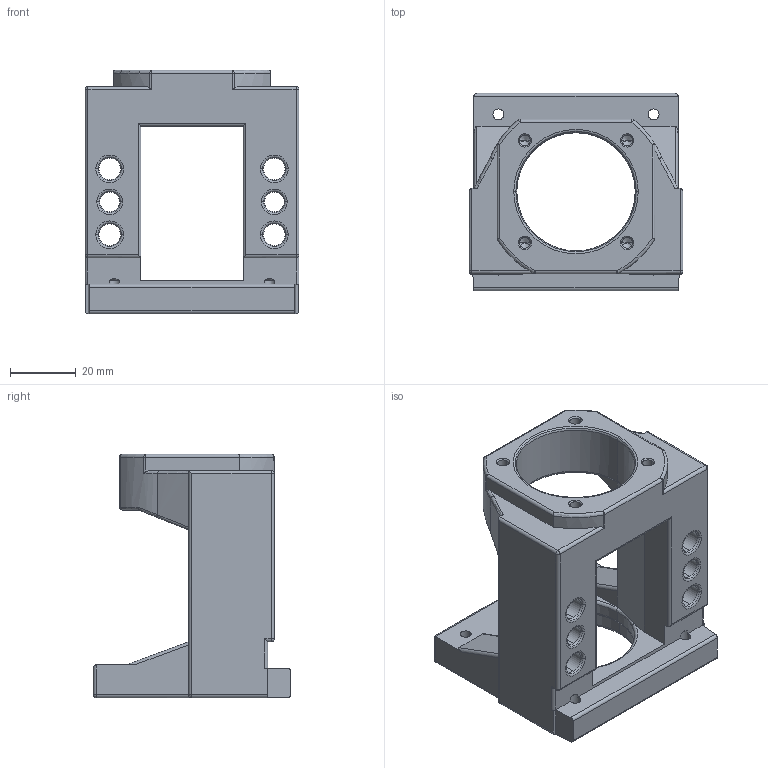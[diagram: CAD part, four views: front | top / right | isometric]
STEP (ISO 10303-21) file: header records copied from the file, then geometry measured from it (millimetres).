
FILE_DESCRIPTION((''),'2;1');
FILE_NAME('M60C-FK12-A','2020-08-24T',('Administrator'),(''),'PRO/ENGINEER BY PARAMETRIC TECHNOLOGY CORPORATION, 2010280','PRO/ENGINEER BY PARAMETRIC TECHNOLOGY CORPORATION, 2010280','');
FILE_SCHEMA(('CONFIG_CONTROL_DESIGN'));
Length unit declared in the file: millimetre
Products named in the file (1): M60C-FK12-A
Bounding box: 65 x 60 x 74 mm (x, y, z)
Volume: 87506.8 mm3; surface area: 27160.9 mm2
Topology: 1 solids, 1 shells, 244 faces, 618 edges, 357 vertices
Faces by surface type: cylinder 98, torus 50, plane 47, cone 26, sphere 16, bspline 7
Entity records: 7911 total; most frequent: CARTESIAN_POINT 2047, DIRECTION 1286, ORIENTED_EDGE 1188, EDGE_CURVE 594, AXIS2_PLACEMENT_3D 522, VERTEX_POINT 357, CIRCLE 285, EDGE_LOOP 275
